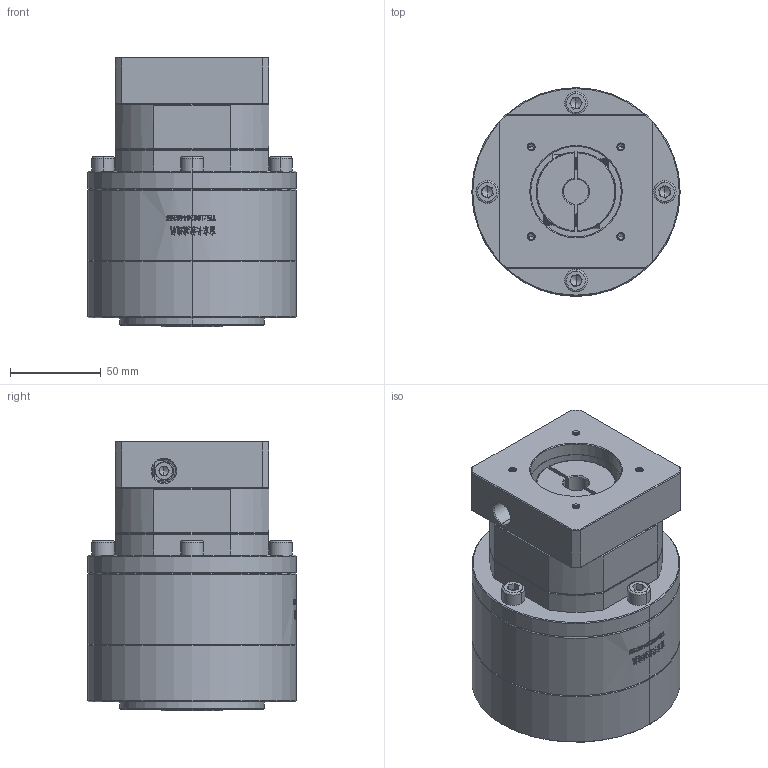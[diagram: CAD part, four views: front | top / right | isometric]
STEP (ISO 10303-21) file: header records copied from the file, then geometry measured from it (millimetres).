
FILE_DESCRIPTION (( 'STEP AP214' ), '1' );
FILE_NAME ('ZE120A-K25-L2-14-50-70-M4.step', '2023-03-13T06:52:48', ( '' ), ( '' ), 'SwSTEP 2.0', 'SolidWorks 2016', '' );
FILE_SCHEMA (( 'AUTOMOTIVE_DESIGN' ));
Length unit declared in the file: millimetre
Products named in the file (1): ZE120A-K25-L2-14-50-70-M4
Bounding box: 115 x 115 x 149 mm (x, y, z)
Volume: 1192033.9 mm3; surface area: 119173.6 mm2
Topology: 5 solids, 6 shells, 1963 faces, 5206 edges, 3334 vertices
Faces by surface type: plane 855, cylinder 459, bspline 339, cone 310
Entity records: 108803 total; most frequent: CARTESIAN_POINT 42969, ORIENTED_EDGE 10340, DIRECTION 7721, EDGE_CURVE 5170, VERTEX_POINT 3334, VECTOR 2733, LINE 2733, AXIS2_PLACEMENT_3D 2494
